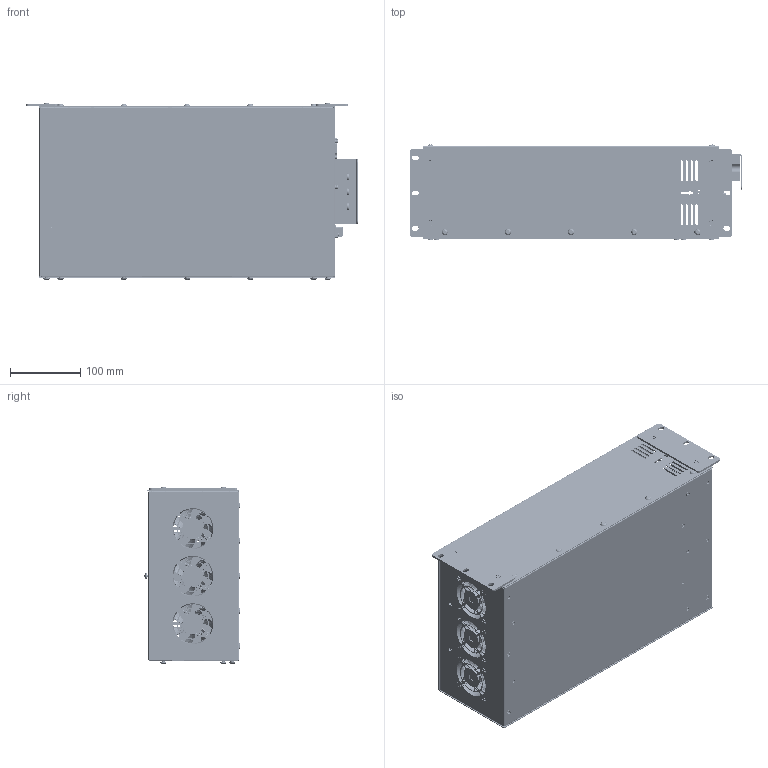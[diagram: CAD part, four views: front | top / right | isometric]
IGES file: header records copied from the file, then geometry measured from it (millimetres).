
Global section: file name: VX3COM_OLED_V_21pitch단자대_2026.06.17; native system: Autodesk Inventor 2026; preprocessor: unknown; author: Administrator; date: 20260617.151125; units: millimetre
Bounding box: 471.02 x 134.93 x 251.17 mm (x, y, z)
Volume: 726594.2 mm3; surface area: 963362.6 mm2
Topology: 169 solids, 171 shells, 9444 faces, 25266 edges, 16748 vertices
Faces by surface type: bspline 9444
